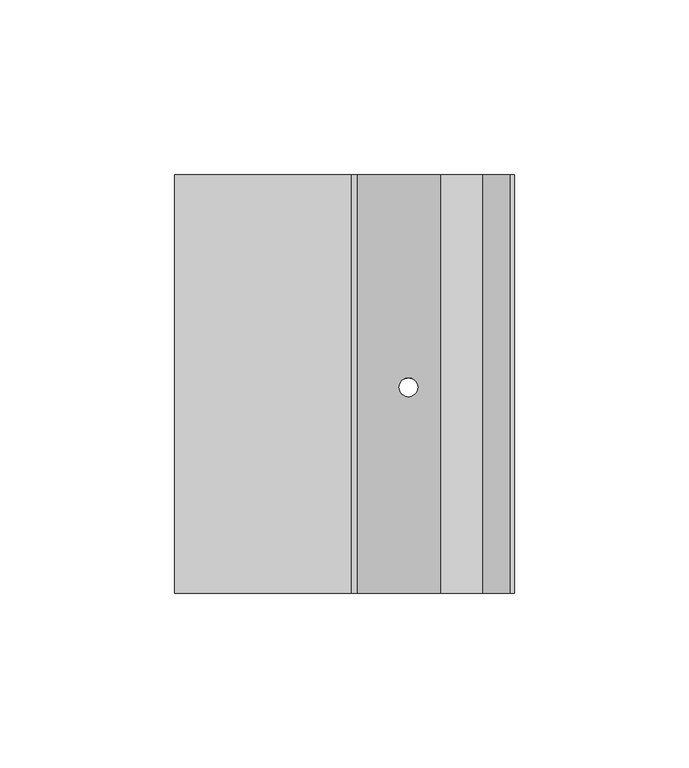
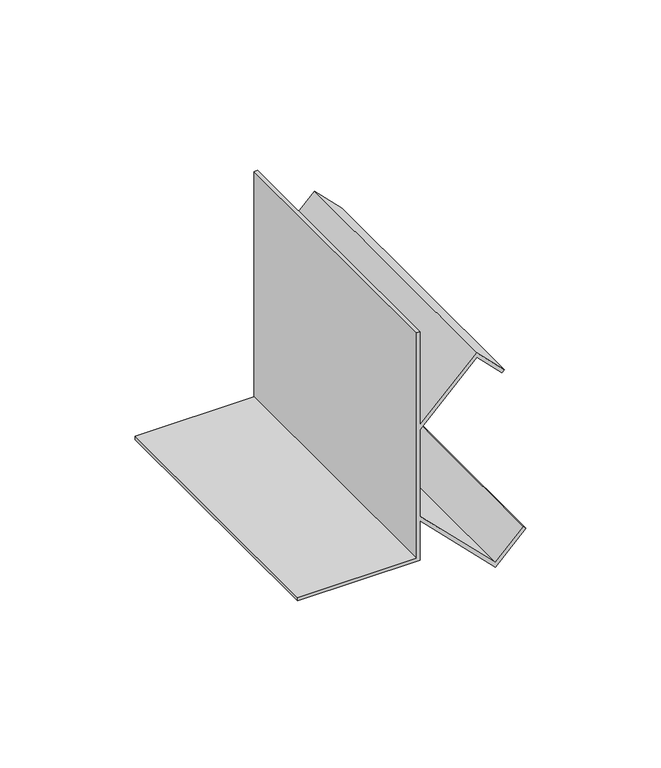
"""IFC4 building model written with IfcOpenShell, lengths in millimetres: proxy geometry, Mechanical Fittings & Accessories21 : Mechanical Fittings & Accessories."""

from ifc_helpers import new_model, si_unit, frame, origin, place, context, project, spatial, polyline, ellipse_curve, source, transform, mapped, element, save
from ifc_brep_helpers import plane_surface, revolved_surface, advanced_brep


def generic_models_e8411314(model_context):
    return source(origin(), model_context, "Body", "AdvancedBrep", [
        advanced_brep(
        [(-13439.8639562, 827.5745236, 4114.8), (-13490.6639562, 827.5745236, 4114.8), (-13490.6639562, 827.5745236, 4113.3117188), (-13438.375675, 827.5745236, 4113.3117188), (-13438.375675, 827.5745236, 4131.1383509), (-13406.265914, 827.5745236, 4099.0285899), (-13393.2869427, 827.5745236, 4112.0075612), (-13394.3393164, 827.5745236, 4113.059935), (-13406.265914, 827.5745236, 4101.1333374), (-13438.375675, 827.5745236, 4133.2430984), (-13438.375675, 827.5745236, 4172.2761118), (-13414.203414, 827.5745236, 4196.4483729), (-13403.4674414, 827.5745236, 4185.7124003), (-13402.4150677, 827.5745236, 4186.7647741), (-13414.203414, 827.5745236, 4198.5531204), (-13438.375675, 827.5745236, 4174.3808594), (-13438.375675, 827.5745236, 4216.4), (-13439.8639562, 827.5745236, 4216.4), (-13439.8639562, 947.5426707, 4114.8), (-13439.8639562, 947.5426707, 4216.4), (-13438.375675, 947.5426707, 4216.4), (-13438.375675, 947.5426707, 4174.3808594), (-13414.203414, 947.5426707, 4198.5531204), (-13402.4150677, 947.5426707, 4186.7647741), (-13403.4674414, 947.5426707, 4185.7124003), (-13414.203414, 947.5426707, 4196.4483729), (-13438.375675, 947.5426707, 4172.2761118), (-13438.375675, 947.5426707, 4133.2430984), (-13406.265914, 947.5426707, 4101.1333374), (-13394.3393164, 947.5426707, 4113.059935), (-13393.2869427, 947.5426707, 4112.0075612), (-13406.265914, 947.5426707, 4099.0285899), (-13438.375675, 947.5426707, 4131.1383509), (-13438.375675, 947.5426707, 4113.3117188), (-13490.6639562, 947.5426707, 4113.3117188), (-13490.6639562, 947.5426707, 4114.8), (-13426.2617646, 886.5972731, 4119.0244406), (-13420.9223978, 886.5972731, 4113.6850737), (-13420.9223978, 886.5972731, 4115.7898213), (-13426.2617646, 886.5972731, 4121.1291881), (-13426.2617646, 886.5972731, 4184.3900222), (-13420.9223978, 886.5972731, 4189.729389), (-13420.9223978, 886.5972731, 4191.8341365), (-13426.2617646, 886.5972731, 4186.4947697)],
        [
            (0, 1),
            (1, 2),
            (2, 3),
            (3, 4),
            (4, 5),
            (5, 6),
            (6, 7),
            (7, 8),
            (8, 9),
            (9, 10),
            (10, 11),
            (11, 12),
            (12, 13),
            (13, 14),
            (14, 15),
            (15, 16),
            (16, 17),
            (17, 0),
            (18, 19),
            (19, 20),
            (20, 21),
            (21, 22),
            (22, 23),
            (23, 24),
            (24, 25),
            (25, 26),
            (26, 27),
            (27, 28),
            (28, 29),
            (29, 30),
            (30, 31),
            (31, 32),
            (32, 33),
            (33, 34),
            (34, 35),
            (35, 18),
            (0, 18),
            (35, 1),
            (34, 2),
            (33, 3),
            (32, 4),
            (31, 5),
            (36, 37, ellipse_curve(frame((-13423.5920812, 886.5972731, 4116.3547571), z_axis=(0.7071067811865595, 0.0, 0.7071067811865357), x_axis=(-0.7071067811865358, 0.0, 0.7071067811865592)), 3.7755025, 2.6696834)),
            (37, 36, ellipse_curve(frame((-13423.5920812, 886.5972731, 4116.3547571), z_axis=(0.7071067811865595, 0.0, 0.7071067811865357), x_axis=(-0.7071067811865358, 0.0, 0.7071067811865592)), 3.7755025, 2.6696834)),
            (30, 6),
            (29, 7),
            (28, 8),
            (27, 9),
            (38, 39, ellipse_curve(frame((-13423.5920812, 886.5972731, 4118.4595047), z_axis=(-0.7071067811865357, 0.0, -0.7071067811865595), x_axis=(-0.7071067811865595, 0.0, 0.7071067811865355)), 3.7755025, 2.6696834)),
            (39, 38, ellipse_curve(frame((-13423.5920812, 886.5972731, 4118.4595047), z_axis=(-0.7071067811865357, 0.0, -0.7071067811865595), x_axis=(-0.7071067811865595, 0.0, 0.7071067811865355)), 3.7755025, 2.6696834)),
            (26, 10),
            (25, 11),
            (40, 41, ellipse_curve(frame((-13423.5920812, 886.5972731, 4187.0597056), z_axis=(-0.7071067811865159, 0.0, 0.7071067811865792), x_axis=(0.7071067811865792, 0.0, 0.7071067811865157)), 3.7755025, 2.6696834)),
            (41, 40, ellipse_curve(frame((-13423.5920812, 886.5972731, 4187.0597056), z_axis=(-0.7071067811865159, 0.0, 0.7071067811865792), x_axis=(0.7071067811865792, 0.0, 0.7071067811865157)), 3.7755025, 2.6696834)),
            (24, 12),
            (23, 13),
            (22, 14),
            (21, 15),
            (42, 43, ellipse_curve(frame((-13423.5920812, 886.5972731, 4189.1644531), z_axis=(0.7071067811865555, 0.0, -0.7071067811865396), x_axis=(0.7071067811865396, 0.0, 0.7071067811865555)), 3.7755025, 2.6696834)),
            (43, 42, ellipse_curve(frame((-13423.5920812, 886.5972731, 4189.1644531), z_axis=(0.7071067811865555, 0.0, -0.7071067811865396), x_axis=(0.7071067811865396, 0.0, 0.7071067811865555)), 3.7755025, 2.6696834)),
            (20, 16),
            (19, 17),
            (36, 39),
            (38, 37),
            (40, 43),
            (42, 41),
        ],
        [
            plane_surface(frame((-13490.6639562, 827.5745236, 4114.8), z_axis=(0.0, -1.0, 0.0), x_axis=(-1.0, 0.0, 0.0))),
            plane_surface(frame((-13490.6639562, 947.5426707, 4114.8), z_axis=(0.0, 1.0, 0.0), x_axis=(1.0, 0.0, 0.0))),
            plane_surface(frame((-13439.8639562, 827.5745236, 4114.8), z_axis=(0.0, 0.0, 1.0), x_axis=(0.0, 1.0, 0.0))),
            plane_surface(frame((-13490.6639562, 827.5745236, 4114.8), z_axis=(-1.0, 0.0, 0.0), x_axis=(0.0, 1.0, 0.0))),
            plane_surface(frame((-13490.6639562, 827.5745236, 4113.3117188), z_axis=(0.0, 0.0, -1.0), x_axis=(0.0, 1.0, 0.0))),
            plane_surface(frame((-13438.375675, 827.5745236, 4113.3117188), z_axis=(1.0, 0.0, 0.0), x_axis=(0.0, 1.0, 0.0))),
            plane_surface(frame((-13438.375675, 827.5745236, 4131.1383509), z_axis=(-0.7071067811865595, 0.0, -0.7071067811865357), x_axis=(0.0, 1.0, 0.0))),
            plane_surface(frame((-13406.265914, 827.5745236, 4099.0285899), z_axis=(0.7071067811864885, 0.0, -0.7071067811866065), x_axis=(0.0, 1.0, 0.0))),
            plane_surface(frame((-13393.2869427, 827.5745236, 4112.0075612), z_axis=(0.7071067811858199, 0.0, 0.7071067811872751), x_axis=(0.0, 1.0, 0.0))),
            plane_surface(frame((-13394.3393164, 827.5745236, 4113.059935), z_axis=(-0.7071067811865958, 0.0, 0.7071067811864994), x_axis=(0.0, 1.0, 0.0))),
            plane_surface(frame((-13406.265914, 827.5745236, 4101.1333374), z_axis=(0.7071067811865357, 0.0, 0.7071067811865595), x_axis=(0.0, 1.0, 0.0))),
            plane_surface(frame((-13438.375675, 827.5745236, 4133.2430984), z_axis=(1.0, 0.0, 0.0), x_axis=(0.0, 1.0, 0.0))),
            plane_surface(frame((-13438.375675, 827.5745236, 4172.2761118), z_axis=(0.7071067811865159, 0.0, -0.7071067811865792), x_axis=(0.0, 1.0, 0.0))),
            plane_surface(frame((-13414.203414, 827.5745236, 4196.4483729), z_axis=(-0.7071067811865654, 0.0, -0.7071067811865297), x_axis=(0.0, 1.0, 0.0))),
            plane_surface(frame((-13403.4674414, 827.5745236, 4185.7124003), z_axis=(0.7071067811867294, 0.0, -0.7071067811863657), x_axis=(0.0, 1.0, 0.0))),
            plane_surface(frame((-13402.4150677, 827.5745236, 4186.7647741), z_axis=(0.707106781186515, 0.0, 0.70710678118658), x_axis=(0.0, 1.0, 0.0))),
            plane_surface(frame((-13414.203414, 827.5745236, 4198.5531204), z_axis=(-0.7071067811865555, 0.0, 0.7071067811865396), x_axis=(0.0, 1.0, 0.0))),
            plane_surface(frame((-13438.375675, 827.5745236, 4174.3808594), z_axis=(1.0, 0.0, 0.0), x_axis=(0.0, 1.0, 0.0))),
            plane_surface(frame((-13438.375675, 827.5745236, 4216.4), z_axis=(0.0, 0.0, 1.0), x_axis=(0.0, 1.0, 0.0))),
            plane_surface(frame((-13439.8639562, 827.5745236, 4216.4), z_axis=(-1.0, 0.0, 0.0), x_axis=(0.0, 1.0, 0.0))),
            revolved_surface(polyline([(-13420.9223978, 886.5972731, 4121.129188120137), (-13420.9223978, 886.5972731, 4113.685073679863)]), (-13423.5920812, 886.5972731, 4097.2034211), (0.0, 0.0, 1.0)),
            revolved_surface(polyline([(-13420.9223978, 886.5972731, 4191.834136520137), (-13420.9223978, 886.5972731, 4184.390022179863)]), (-13423.5920812, 886.5972731, 4097.2034211), (0.0, 0.0, 1.0)),
        ],
        [
            (0, [[1, 2, 3, 4, 5, 6, 7, 8, 9, 10, 11, 12, 13, 14, 15, 16, 17, 18]]),
            (1, [[19, 20, 21, 22, 23, 24, 25, 26, 27, 28, 29, 30, 31, 32, 33, 34, 35, 36]]),
            (2, [[-1, 37, -36, 38]]),
            (3, [[-2, -38, -35, 39]]),
            (4, [[-3, -39, -34, 40]]),
            (5, [[-4, -40, -33, 41]]),
            (6, [[-5, -41, -32, 42], [43, 44]]),
            (7, [[-6, -42, -31, 45]]),
            (8, [[-7, -45, -30, 46]]),
            (9, [[-8, -46, -29, 47]]),
            (10, [[-9, -47, -28, 48], [49, 50]]),
            (11, [[-10, -48, -27, 51]]),
            (12, [[-11, -51, -26, 52], [53, 54]]),
            (13, [[-12, -52, -25, 55]]),
            (14, [[-13, -55, -24, 56]]),
            (15, [[-14, -56, -23, 57]]),
            (16, [[-15, -57, -22, 58], [59, 60]]),
            (17, [[-16, -58, -21, 61]]),
            (18, [[-17, -61, -20, 62]]),
            (19, [[-18, -62, -19, -37]]),
            (20, [[63, -49, 64, -43]]),
            (21, [[65, -59, 66, -53]]),
            (20, [[-63, -44, -64, -50]]),
            (21, [[-65, -54, -66, -60]]),
        ],
    ),
    ])


if __name__ == "__main__":
    model = new_model("IFC4")
    model_context = context("Model", 3, world=origin())
    ifc_project = project(units=[si_unit("LENGTHUNIT", "METRE", prefix="MILLI")], contexts=[model_context])
    site = spatial("IfcSite", under=ifc_project)
    building = spatial("IfcBuilding", under=site)
    placement = place(None, origin())
    generic_models_shape = generic_models_e8411314(model_context)
    element("IfcBuildingElementProxy", 1, Name="Mechanical Fittings & Accessories21 : Mechanical Fittings & Accessories", ObjectType="Mechanical Fittings & Accessories21 : Mechanical Fittings & Accessories", at=placement, inside=building, context=model_context, shape_type="MappedRepresentation", body=[
        mapped(generic_models_shape, transform((0.0, 0.0, 0.0), x_axis=(1.0, 0.0, 0.0), y_axis=(0.0, 1.0, 0.0), z_axis=(0.0, 0.0, 1.0))),
    ])
    save(model, "model.ifc")
